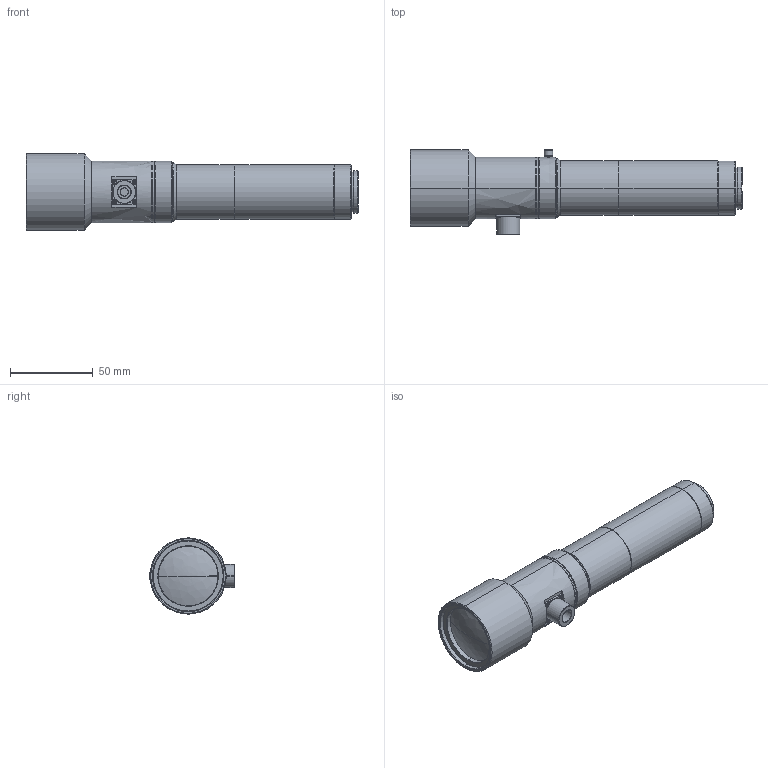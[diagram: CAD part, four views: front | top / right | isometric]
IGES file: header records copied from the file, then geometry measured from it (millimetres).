
Start section: SolidWorks IGES file using analytic representation for surfaces
Global section: file name: C:\Users\matsui_VST\Desktop\AutoCAD図面DATA\●・THV30-110 (2000206)   (3Dモデル) ▲\VS-THV3-110CO_S.IGS; native system: SolidWorks 2018; preprocessor: SolidWorks 2018; author: matsui_VST; date: 200616.132828; units: millimetre
Bounding box: 200.27 x 51.3 x 46 mm (x, y, z)
Surface area: 37906.5 mm2 (no closed solid volume)
Topology: 0 solids, 0 shells, 242 faces, 3509 edges, 3508 vertices
Faces by surface type: revolution 138, bspline 104
